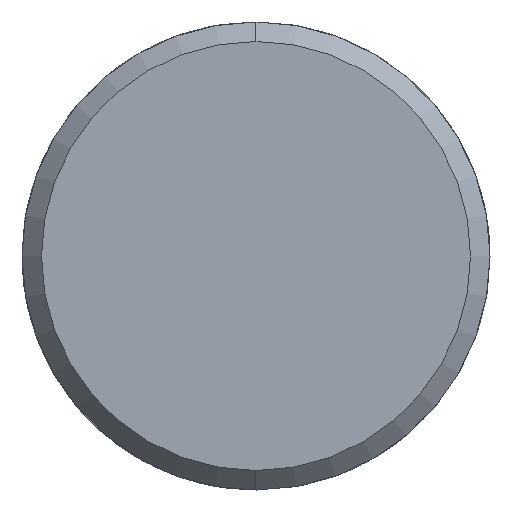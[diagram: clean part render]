
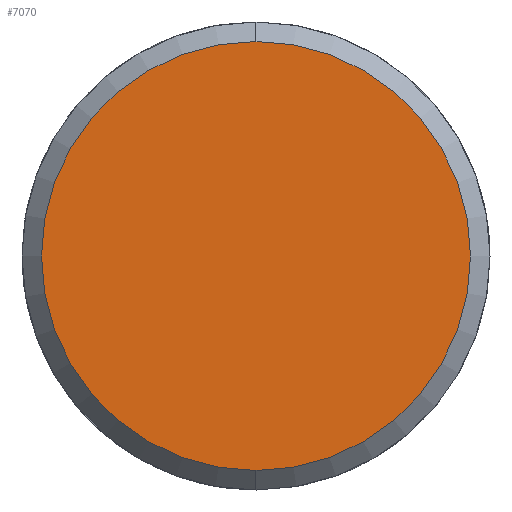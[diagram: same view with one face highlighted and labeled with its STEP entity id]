
A CAD part, left-side view. The second image highlights one B-rep face of the part: STEP entity #7070.
In plain terms, the highlighted planar face has unit normal (-1, 0, 0).
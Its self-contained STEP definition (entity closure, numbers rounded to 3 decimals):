
#1241 = FACE_OUTER_BOUND ( 'NONE', #6560, .T. ) ;
#3233 = DIRECTION ( 'NONE',  ( 0., 0., 1. ) ) ;
#3237 = DIRECTION ( 'NONE',  ( -1., 0., 0. ) ) ;
#3243 = CARTESIAN_POINT ( 'NONE',  ( 0., 0., 0. ) ) ;
#3352 = PLANE ( 'NONE',  #8354 ) ;
#3547 = CARTESIAN_POINT ( 'NONE',  ( 0., 0., 5.5 ) ) ;
#3563 = DIRECTION ( 'NONE',  ( 0., 0., -1. ) ) ;
#3571 = DIRECTION ( 'NONE',  ( 1., 0., 0. ) ) ;
#3575 = CARTESIAN_POINT ( 'NONE',  ( 0., 0., 0. ) ) ;
#4103 = DIRECTION ( 'NONE',  ( 0., 0., -1. ) ) ;
#4108 = DIRECTION ( 'NONE',  ( 1., 0., 0. ) ) ;
#4119 = CARTESIAN_POINT ( 'NONE',  ( 0., 0., 0. ) ) ;
#4145 = CIRCLE ( 'NONE', #5885, 5.5 ) ;
#4269 = AXIS2_PLACEMENT_3D ( 'NONE', #3575, #3571, #3563 ) ;
#4312 = CARTESIAN_POINT ( 'NONE',  ( 0., 0., -5.5 ) ) ;
#5885 = AXIS2_PLACEMENT_3D ( 'NONE', #4119, #4108, #4103 ) ;
#6013 = EDGE_CURVE ( 'NONE', #6148, #6591, #4145, .T. ) ;
#6148 = VERTEX_POINT ( 'NONE', #4312 ) ;
#6329 = CIRCLE ( 'NONE', #4269, 5.5 ) ;
#6394 = ORIENTED_EDGE ( 'NONE', *, *, #6540, .F. ) ;
#6540 = EDGE_CURVE ( 'NONE', #6591, #6148, #6329, .T. ) ;
#6560 = EDGE_LOOP ( 'NONE', ( #6799, #6394 ) ) ;
#6591 = VERTEX_POINT ( 'NONE', #3547 ) ;
#6799 = ORIENTED_EDGE ( 'NONE', *, *, #6013, .F. ) ;
#7070 = ADVANCED_FACE ( 'NONE', ( #1241 ), #3352, .T. ) ;
#8354 = AXIS2_PLACEMENT_3D ( 'NONE', #3243, #3237, #3233 ) ;
